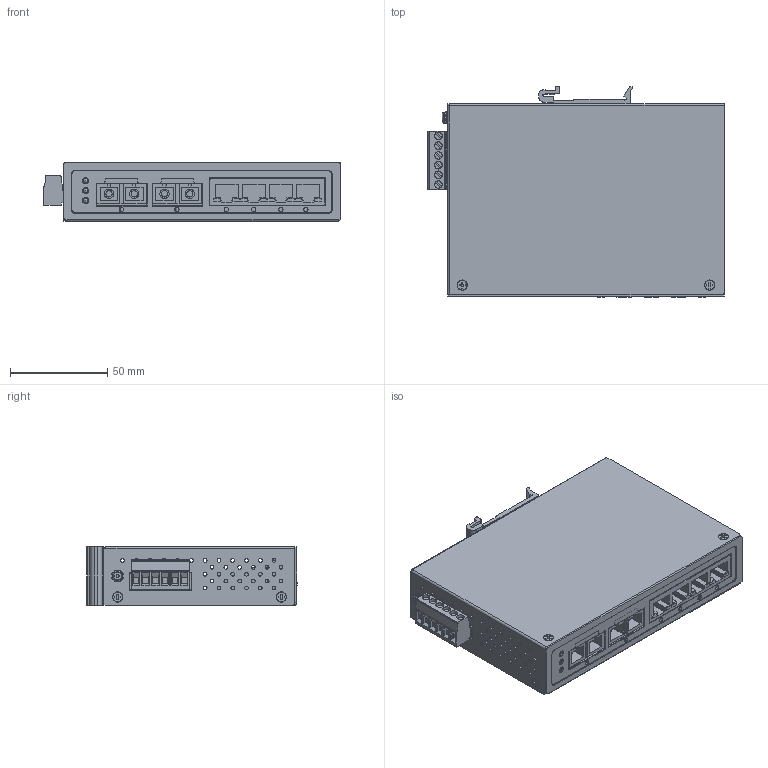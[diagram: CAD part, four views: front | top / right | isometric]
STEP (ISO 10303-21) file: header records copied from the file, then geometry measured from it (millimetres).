
FILE_DESCRIPTION(/* description */ ('STEP AP242','CAx-IF Rec.Pracs.---Representation and Presentation of Product Manufacturing Information (PMI)---4.0---2014-10-13','CAx-IF Rec.Pracs.---3D Tessellated Geometry---0.4---2014-09-14','2;1'),/* implementation_level */ '2;1');
FILE_NAME(/* name */ '6850628dfe9cc5566e1f5abc',/* time_stamp */ '2025-06-16T18:29:35Z',/* author */ (''),/* organization */ (''),/* preprocessor_version */ 'ST-DEVELOPER v20',/* originating_system */ 'ONSHAPE BY PTC INC, 1.199',/* authorisation */ ' ');
FILE_SCHEMA (('AP242_MANAGED_MODEL_BASED_3D_ENGINEERING_MIM_LF { 1 0 10303 442 1 1 4 }'));
Length unit declared in the file: metre
Products named in the file (159): ETH-42-XX-1; Housing Assy <1>; PRT0009; PRT0011; PRT0008; PRT0013; PRT0012; PCB Components <1>; PRT0005; PRT0004; PRT0007; Header Assy <1>; Header <1>; PRT0006; PRT0010; Front Housing <1>; PRT0002; PRT0001; PRT0003
Assembly tree (171 placements, depth 6):
  ETH-42-XX-1
    Housing Assy <1>
      PRT0009  x10
      PRT0011
      PRT0008
      PRT0008
      PRT0008
      PRT0008
      PRT0008
      PRT0008
      PRT0008
      PRT0008
      PRT0008
      PRT0008
      PRT0008
      PRT0008
      PRT0008
      PRT0008
      PRT0008
      PRT0008
      PRT0008
      PRT0008
      PRT0008
      PRT0008
      PRT0013
      PRT0012
      PRT0012
      PRT0012
      PRT0012
      PRT0012
      PRT0012
      PRT0012
      PRT0012
      PRT0012
      PRT0012
      PRT0012
      PRT0012
      PRT0012
      PCB Components <1>
        PRT0005  x2
        PRT0004
        PRT0007
        Header Assy <1>
          Header <1>
            PRT0006
      PRT0010
      Front Housing <1>
        PRT0002  x4
        PRT0001
        PRT0001
        PRT0001
        PRT0001
        PRT0001
        PRT0001
        PRT0001
        PRT0001
        PRT0001
        PRT0001
        PRT0001
        PRT0001
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Bounding box: 152.14 x 107.94 x 30 mm (x, y, z)
Volume: 34344 mm3; surface area: 123081.7 mm2
Topology: 22 solids, 166 shells, 1970 faces, 5698 edges, 3956 vertices
Faces by surface type: plane 1188, cylinder 616, torus 79, cone 52, sphere 33, bspline 2
Full cylindrical faces by diameter (mm): 0.609 x1, 1.3 x22, 1.4 x6, 1.5 x1, 1.9 x111, 2 x15, 2.2 x6, 2.3 x9, 2.449 x4, 2.459 x4, 2.5 x2, 2.8 x10, 2.9 x8, 3 x13, 3.2 x7, 3.5 x7, 3.78 x4, 3.783 x6, 3.99 x8, 4 x28, 4.2 x13, 4.8 x4, 5 x10, 5.5 x1
Entity records: 59027 total; most frequent: CARTESIAN_POINT 13126, DIRECTION 9325, ORIENTED_EDGE 7648, EDGE_CURVE 4347, AXIS2_PLACEMENT_3D 3294, VERTEX_POINT 3197, LINE 2737, VECTOR 2737
